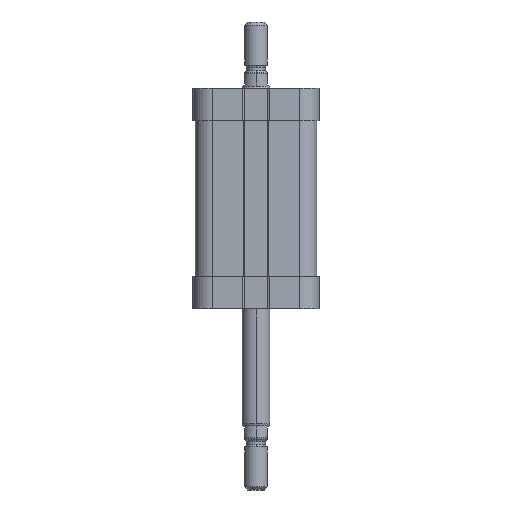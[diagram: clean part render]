
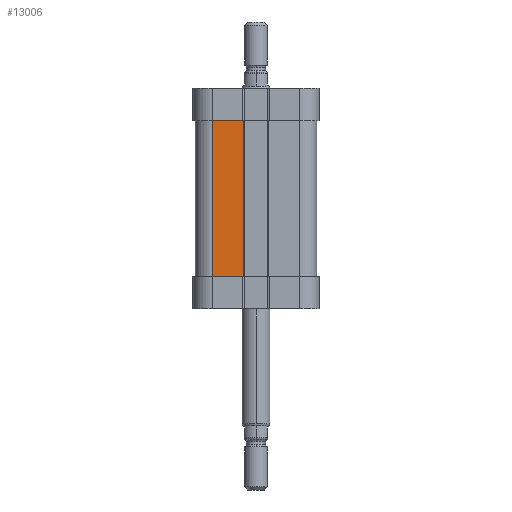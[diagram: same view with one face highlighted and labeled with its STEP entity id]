
A CAD part, left-side view. The second image highlights one B-rep face of the part: STEP entity #13006.
In plain terms, the highlighted planar face has unit normal (-1, 0, 0).
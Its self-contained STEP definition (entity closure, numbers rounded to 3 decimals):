
#8740=CARTESIAN_POINT('',(-24.25,1.9,-11.6));
#8741=VERTEX_POINT('',#8740);
#8749=CARTESIAN_POINT('',(-24.25,15.5,-11.6));
#8750=VERTEX_POINT('',#8749);
#8751=CARTESIAN_POINT('',(-24.25,15.5,-11.6));
#8752=DIRECTION('',(0.0,-1.0,0.0));
#8753=VECTOR('',#8752,13.6);
#8754=LINE('',#8751,#8753);
#8755=EDGE_CURVE('',#8750,#8741,#8754,.T.);
#10284=CARTESIAN_POINT('',(-24.25,15.5,56.6));
#10285=VERTEX_POINT('',#10284);
#10293=CARTESIAN_POINT('',(-24.25,1.9,56.6));
#10294=VERTEX_POINT('',#10293);
#10295=CARTESIAN_POINT('',(-24.25,1.9,56.6));
#10296=DIRECTION('',(0.0,1.0,0.0));
#10297=VECTOR('',#10296,13.6);
#10298=LINE('',#10295,#10297);
#10299=EDGE_CURVE('',#10294,#10285,#10298,.T.);
#12924=CARTESIAN_POINT('',(-24.25,1.9,56.6));
#12925=DIRECTION('',(0.0,0.0,-1.0));
#12926=VECTOR('',#12925,68.2);
#12927=LINE('',#12924,#12926);
#12928=EDGE_CURVE('',#10294,#8741,#12927,.T.);
#12990=CARTESIAN_POINT('',(-24.25,-22.5,-11.6));
#12991=DIRECTION('',(-1.0,0.0,0.0));
#12992=DIRECTION('',(0.0,0.0,1.0));
#12993=AXIS2_PLACEMENT_3D('',#12990,#12991,#12992);
#12994=PLANE('',#12993);
#12995=ORIENTED_EDGE('',*,*,#12928,.F.);
#12996=ORIENTED_EDGE('',*,*,#10299,.T.);
#12997=CARTESIAN_POINT('',(-24.25,15.5,-11.6));
#12998=DIRECTION('',(0.0,0.0,1.0));
#12999=VECTOR('',#12998,68.2);
#13000=LINE('',#12997,#12999);
#13001=EDGE_CURVE('',#8750,#10285,#13000,.T.);
#13002=ORIENTED_EDGE('',*,*,#13001,.F.);
#13003=ORIENTED_EDGE('',*,*,#8755,.T.);
#13004=EDGE_LOOP('',(#12995,#12996,#13002,#13003));
#13005=FACE_OUTER_BOUND('',#13004,.T.);
#13006=ADVANCED_FACE('',(#13005),#12994,.T.);
